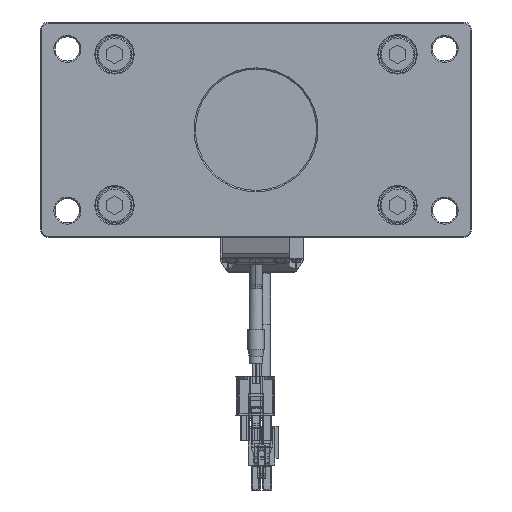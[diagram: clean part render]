
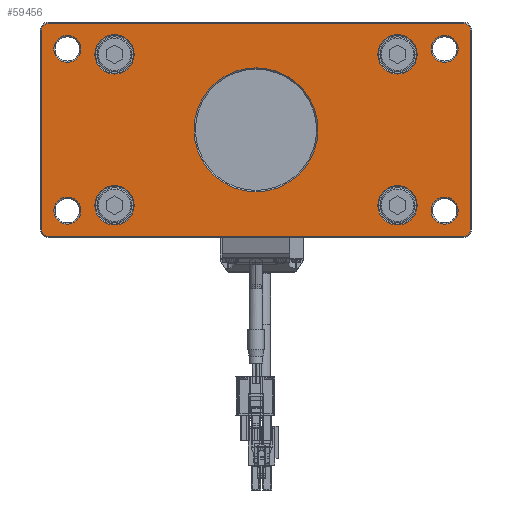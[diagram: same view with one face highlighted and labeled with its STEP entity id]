
A CAD part, front view. The second image highlights one B-rep face of the part: STEP entity #59456.
In plain terms, the highlighted planar face has unit normal (0, -1, 0) as drawn and (0, 1, 0) by its records, which use the part's own axes.
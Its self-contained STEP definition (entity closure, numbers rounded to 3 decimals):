
#57908=CARTESIAN_POINT('',(0.,7.,0.));
#57909=DIRECTION('',(0.,-1.,0.));
#57910=DIRECTION('',(1.,0.,0.));
#57911=AXIS2_PLACEMENT_3D('',#57908,#57909,#57910);
#57913=CARTESIAN_POINT('',(0.,7.,0.));
#57914=DIRECTION('',(0.,-1.,0.));
#57915=DIRECTION('',(-1.,0.,0.));
#57916=AXIS2_PLACEMENT_3D('',#57913,#57914,#57915);
#57918=CARTESIAN_POINT('',(-70.,7.,-30.));
#57919=DIRECTION('',(0.,-1.,0.));
#57920=DIRECTION('',(-1.,0.,0.));
#57921=AXIS2_PLACEMENT_3D('',#57918,#57919,#57920);
#57923=CARTESIAN_POINT('',(-70.,7.,-30.));
#57924=DIRECTION('',(0.,-1.,0.));
#57925=DIRECTION('',(1.,0.,0.));
#57926=AXIS2_PLACEMENT_3D('',#57923,#57924,#57925);
#57928=CARTESIAN_POINT('',(70.,7.,-30.));
#57929=DIRECTION('',(0.,-1.,0.));
#57930=DIRECTION('',(-1.,0.,0.));
#57931=AXIS2_PLACEMENT_3D('',#57928,#57929,#57930);
#57933=CARTESIAN_POINT('',(70.,7.,-30.));
#57934=DIRECTION('',(0.,-1.,0.));
#57935=DIRECTION('',(1.,0.,0.));
#57936=AXIS2_PLACEMENT_3D('',#57933,#57934,#57935);
#57938=CARTESIAN_POINT('',(70.,7.,30.));
#57939=DIRECTION('',(0.,-1.,0.));
#57940=DIRECTION('',(1.,0.,0.));
#57941=AXIS2_PLACEMENT_3D('',#57938,#57939,#57940);
#57943=CARTESIAN_POINT('',(70.,7.,30.));
#57944=DIRECTION('',(0.,-1.,0.));
#57945=DIRECTION('',(-1.,0.,0.));
#57946=AXIS2_PLACEMENT_3D('',#57943,#57944,#57945);
#57948=CARTESIAN_POINT('',(-70.,7.,30.));
#57949=DIRECTION('',(0.,-1.,0.));
#57950=DIRECTION('',(-1.,0.,0.));
#57951=AXIS2_PLACEMENT_3D('',#57948,#57949,#57950);
#57953=CARTESIAN_POINT('',(-70.,7.,30.));
#57954=DIRECTION('',(0.,-1.,0.));
#57955=DIRECTION('',(1.,0.,0.));
#57956=AXIS2_PLACEMENT_3D('',#57953,#57954,#57955);
#57958=CARTESIAN_POINT('',(-77.,7.,-37.));
#57959=DIRECTION('',(0.,1.,0.));
#57960=DIRECTION('',(0.,0.,-1.));
#57961=AXIS2_PLACEMENT_3D('',#57958,#57959,#57960);
#57963=DIRECTION('',(-1.,0.,0.));
#57964=VECTOR('',#57963,154.);
#57965=CARTESIAN_POINT('',(77.,7.,
-39.5));
#57966=LINE('',#57965,#57964);
#57967=CARTESIAN_POINT('',(77.,7.,-37.));
#57968=DIRECTION('',(0.,1.,0.));
#57969=DIRECTION('',(1.,0.,0.));
#57970=AXIS2_PLACEMENT_3D('',#57967,#57968,#57969);
#57972=DIRECTION('',(0.,0.,-1.));
#57973=VECTOR('',#57972,74.);
#57974=CARTESIAN_POINT('',(79.5,7.,37.));
#57975=LINE('',#57974,#57973);
#57976=CARTESIAN_POINT('',(77.,7.,37.));
#57977=DIRECTION('',(0.,1.,0.));
#57978=DIRECTION('',(0.,0.,1.));
#57979=AXIS2_PLACEMENT_3D('',#57976,#57977,#57978);
#57981=DIRECTION('',(1.,0.,0.));
#57982=VECTOR('',#57981,154.);
#57983=CARTESIAN_POINT('',(-77.,7.,
39.5));
#57984=LINE('',#57983,#57982);
#57985=CARTESIAN_POINT('',(-77.,7.,37.));
#57986=DIRECTION('',(0.,1.,0.));
#57987=DIRECTION('',(-1.,0.,0.));
#57988=AXIS2_PLACEMENT_3D('',#57985,#57986,#57987);
#57990=DIRECTION('',(0.,0.,1.));
#57991=VECTOR('',#57990,74.);
#57992=CARTESIAN_POINT('',(-79.5,7.,
-37.));
#57993=LINE('',#57992,#57991);
#57994=CARTESIAN_POINT('',(52.5,7.,28.));
#57995=DIRECTION('',(0.,-1.,0.));
#57996=DIRECTION('',(1.,0.,0.));
#57997=AXIS2_PLACEMENT_3D('',#57994,#57995,#57996);
#57999=CARTESIAN_POINT('',(52.5,7.,28.));
#58000=DIRECTION('',(0.,-1.,0.));
#58001=DIRECTION('',(-1.,0.,0.));
#58002=AXIS2_PLACEMENT_3D('',#57999,#58000,#58001);
#58004=CARTESIAN_POINT('',(-52.5,7.,28.));
#58005=DIRECTION('',(0.,-1.,0.));
#58006=DIRECTION('',(1.,0.,0.));
#58007=AXIS2_PLACEMENT_3D('',#58004,#58005,#58006);
#58009=CARTESIAN_POINT('',(-52.5,7.,28.));
#58010=DIRECTION('',(0.,-1.,0.));
#58011=DIRECTION('',(-1.,0.,0.));
#58012=AXIS2_PLACEMENT_3D('',#58009,#58010,#58011);
#58014=CARTESIAN_POINT('',(52.5,7.,-28.));
#58015=DIRECTION('',(0.,-1.,0.));
#58016=DIRECTION('',(1.,0.,0.));
#58017=AXIS2_PLACEMENT_3D('',#58014,#58015,#58016);
#58019=CARTESIAN_POINT('',(52.5,7.,-28.));
#58020=DIRECTION('',(0.,-1.,0.));
#58021=DIRECTION('',(-1.,0.,0.));
#58022=AXIS2_PLACEMENT_3D('',#58019,#58020,#58021);
#58024=CARTESIAN_POINT('',(-52.5,7.,-28.));
#58025=DIRECTION('',(0.,-1.,0.));
#58026=DIRECTION('',(1.,0.,0.));
#58027=AXIS2_PLACEMENT_3D('',#58024,#58025,#58026);
#58029=CARTESIAN_POINT('',(-52.5,7.,-28.));
#58030=DIRECTION('',(0.,-1.,0.));
#58031=DIRECTION('',(-1.,0.,0.));
#58032=AXIS2_PLACEMENT_3D('',#58029,#58030,#58031);
#58940=CARTESIAN_POINT('',(23.,7.,0.));
#58941=CARTESIAN_POINT('',(-23.,7.,0.));
#58942=VERTEX_POINT('',#58940);
#58943=VERTEX_POINT('',#58941);
#58956=CARTESIAN_POINT('',(-75.,7.,-30.));
#58957=CARTESIAN_POINT('',(-65.,7.,-30.));
#58958=VERTEX_POINT('',#58956);
#58959=VERTEX_POINT('',#58957);
#58964=CARTESIAN_POINT('',(65.,7.,-30.));
#58965=CARTESIAN_POINT('',(75.,7.,-30.));
#58966=VERTEX_POINT('',#58964);
#58967=VERTEX_POINT('',#58965);
#58972=CARTESIAN_POINT('',(75.,7.,30.));
#58973=CARTESIAN_POINT('',(65.,7.,30.));
#58974=VERTEX_POINT('',#58972);
#58975=VERTEX_POINT('',#58973);
#58980=CARTESIAN_POINT('',(-75.,7.,30.));
#58981=CARTESIAN_POINT('',(-65.,7.,30.));
#58982=VERTEX_POINT('',#58980);
#58983=VERTEX_POINT('',#58981);
#59052=CARTESIAN_POINT('',(-77.,7.,-39.5));
#59053=CARTESIAN_POINT('',(-79.5,7.,-37.));
#59054=VERTEX_POINT('',#59052);
#59055=VERTEX_POINT('',#59053);
#59060=CARTESIAN_POINT('',(-79.5,7.,37.));
#59061=VERTEX_POINT('',#59060);
#59064=CARTESIAN_POINT('',(-77.,7.,39.5));
#59065=VERTEX_POINT('',#59064);
#59068=CARTESIAN_POINT('',(77.,7.,39.5));
#59069=VERTEX_POINT('',#59068);
#59072=CARTESIAN_POINT('',(79.5,7.,37.));
#59073=VERTEX_POINT('',#59072);
#59076=CARTESIAN_POINT('',(79.5,7.,-37.));
#59077=VERTEX_POINT('',#59076);
#59080=CARTESIAN_POINT('',(77.,7.,-39.5));
#59081=VERTEX_POINT('',#59080);
#59100=CARTESIAN_POINT('',(59.8,7.,28.));
#59101=CARTESIAN_POINT('',(45.2,7.,28.));
#59102=VERTEX_POINT('',#59100);
#59103=VERTEX_POINT('',#59101);
#59124=CARTESIAN_POINT('',(-45.2,7.,28.));
#59125=CARTESIAN_POINT('',(-59.8,7.,28.));
#59126=VERTEX_POINT('',#59124);
#59127=VERTEX_POINT('',#59125);
#59140=CARTESIAN_POINT('',(59.8,7.,-28.));
#59141=CARTESIAN_POINT('',(45.2,7.,-28.));
#59142=VERTEX_POINT('',#59140);
#59143=VERTEX_POINT('',#59141);
#59148=CARTESIAN_POINT('',(-45.2,7.,-28.));
#59149=CARTESIAN_POINT('',(-59.8,7.,-28.));
#59150=VERTEX_POINT('',#59148);
#59151=VERTEX_POINT('',#59149);
#59380=CARTESIAN_POINT('',(0.,7.,0.));
#59381=DIRECTION('',(0.,1.,0.));
#59382=DIRECTION('',(1.,0.,0.));
#59383=AXIS2_PLACEMENT_3D('',#59380,#59381,#59382);
#59384=PLANE('',#59383);
#59386=ORIENTED_EDGE('',*,*,#59385,.F.);
#59388=ORIENTED_EDGE('',*,*,#59387,.F.);
#59390=ORIENTED_EDGE('',*,*,#59389,.F.);
#59392=ORIENTED_EDGE('',*,*,#59391,.F.);
#59394=ORIENTED_EDGE('',*,*,#59393,.F.);
#59396=ORIENTED_EDGE('',*,*,#59395,.F.);
#59398=ORIENTED_EDGE('',*,*,#59397,.F.);
#59400=ORIENTED_EDGE('',*,*,#59399,.F.);
#59401=EDGE_LOOP('',(#59386,#59388,#59390,#59392,#59394,#59396,#59398,#59400));
#59402=FACE_OUTER_BOUND('',#59401,.F.);
#59404=ORIENTED_EDGE('',*,*,#59403,.F.);
#59406=ORIENTED_EDGE('',*,*,#59405,.F.);
#59407=EDGE_LOOP('',(#59404,#59406));
#59408=FACE_BOUND('',#59407,.F.);
#59410=ORIENTED_EDGE('',*,*,#59409,.F.);
#59412=ORIENTED_EDGE('',*,*,#59411,.F.);
#59413=EDGE_LOOP('',(#59410,#59412));
#59414=FACE_BOUND('',#59413,.F.);
#59416=ORIENTED_EDGE('',*,*,#59415,.F.);
#59418=ORIENTED_EDGE('',*,*,#59417,.F.);
#59419=EDGE_LOOP('',(#59416,#59418));
#59420=FACE_BOUND('',#59419,.F.);
#59422=ORIENTED_EDGE('',*,*,#59421,.F.);
#59424=ORIENTED_EDGE('',*,*,#59423,.F.);
#59425=EDGE_LOOP('',(#59422,#59424));
#59426=FACE_BOUND('',#59425,.F.);
#59428=ORIENTED_EDGE('',*,*,#59427,.F.);
#59429=ORIENTED_EDGE('',*,*,#59370,.F.);
#59430=EDGE_LOOP('',(#59428,#59429));
#59431=FACE_BOUND('',#59430,.F.);
#59433=ORIENTED_EDGE('',*,*,#59432,.F.);
#59435=ORIENTED_EDGE('',*,*,#59434,.F.);
#59436=EDGE_LOOP('',(#59433,#59435));
#59437=FACE_BOUND('',#59436,.F.);
#59439=ORIENTED_EDGE('',*,*,#59438,.F.);
#59441=ORIENTED_EDGE('',*,*,#59440,.F.);
#59442=EDGE_LOOP('',(#59439,#59441));
#59443=FACE_BOUND('',#59442,.F.);
#59445=ORIENTED_EDGE('',*,*,#59444,.F.);
#59447=ORIENTED_EDGE('',*,*,#59446,.F.);
#59448=EDGE_LOOP('',(#59445,#59447));
#59449=FACE_BOUND('',#59448,.F.);
#59451=ORIENTED_EDGE('',*,*,#59450,.F.);
#59453=ORIENTED_EDGE('',*,*,#59452,.F.);
#59454=EDGE_LOOP('',(#59451,#59453));
#59455=FACE_BOUND('',#59454,.F.);
#59456=ADVANCED_FACE('',(#59402,#59408,#59414,#59420,#59426,#59431,#59437,
#59443,#59449,#59455),#59384,.T.);
#57912=CIRCLE('',#57911,23.);
#57917=CIRCLE('',#57916,23.);
#57922=CIRCLE('',#57921,5.);
#57927=CIRCLE('',#57926,5.);
#57932=CIRCLE('',#57931,5.);
#57937=CIRCLE('',#57936,5.);
#57942=CIRCLE('',#57941,5.);
#57947=CIRCLE('',#57946,5.);
#57952=CIRCLE('',#57951,5.);
#57957=CIRCLE('',#57956,5.);
#57962=CIRCLE('',#57961,2.5);
#57971=CIRCLE('',#57970,2.5);
#57980=CIRCLE('',#57979,2.5);
#57989=CIRCLE('',#57988,2.5);
#57998=CIRCLE('',#57997,7.3);
#58003=CIRCLE('',#58002,7.3);
#58008=CIRCLE('',#58007,7.3);
#58013=CIRCLE('',#58012,7.3);
#58018=CIRCLE('',#58017,7.3);
#58023=CIRCLE('',#58022,7.3);
#58028=CIRCLE('',#58027,7.3);
#58033=CIRCLE('',#58032,7.3);
#59370=EDGE_CURVE('',#58943,#58942,#57917,.T.);
#59385=EDGE_CURVE('',#59054,#59055,#57962,.T.);
#59387=EDGE_CURVE('',#59081,#59054,#57966,.T.);
#59389=EDGE_CURVE('',#59077,#59081,#57971,.T.);
#59391=EDGE_CURVE('',#59073,#59077,#57975,.T.);
#59393=EDGE_CURVE('',#59069,#59073,#57980,.T.);
#59395=EDGE_CURVE('',#59065,#59069,#57984,.T.);
#59397=EDGE_CURVE('',#59061,#59065,#57989,.T.);
#59399=EDGE_CURVE('',#59055,#59061,#57993,.T.);
#59403=EDGE_CURVE('',#58958,#58959,#57922,.T.);
#59405=EDGE_CURVE('',#58959,#58958,#57927,.T.);
#59409=EDGE_CURVE('',#58966,#58967,#57932,.T.);
#59411=EDGE_CURVE('',#58967,#58966,#57937,.T.);
#59415=EDGE_CURVE('',#58974,#58975,#57942,.T.);
#59417=EDGE_CURVE('',#58975,#58974,#57947,.T.);
#59421=EDGE_CURVE('',#58982,#58983,#57952,.T.);
#59423=EDGE_CURVE('',#58983,#58982,#57957,.T.);
#59427=EDGE_CURVE('',#58942,#58943,#57912,.T.);
#59432=EDGE_CURVE('',#59102,#59103,#57998,.T.);
#59434=EDGE_CURVE('',#59103,#59102,#58003,.T.);
#59438=EDGE_CURVE('',#59126,#59127,#58008,.T.);
#59440=EDGE_CURVE('',#59127,#59126,#58013,.T.);
#59444=EDGE_CURVE('',#59142,#59143,#58018,.T.);
#59446=EDGE_CURVE('',#59143,#59142,#58023,.T.);
#59450=EDGE_CURVE('',#59150,#59151,#58028,.T.);
#59452=EDGE_CURVE('',#59151,#59150,#58033,.T.);
